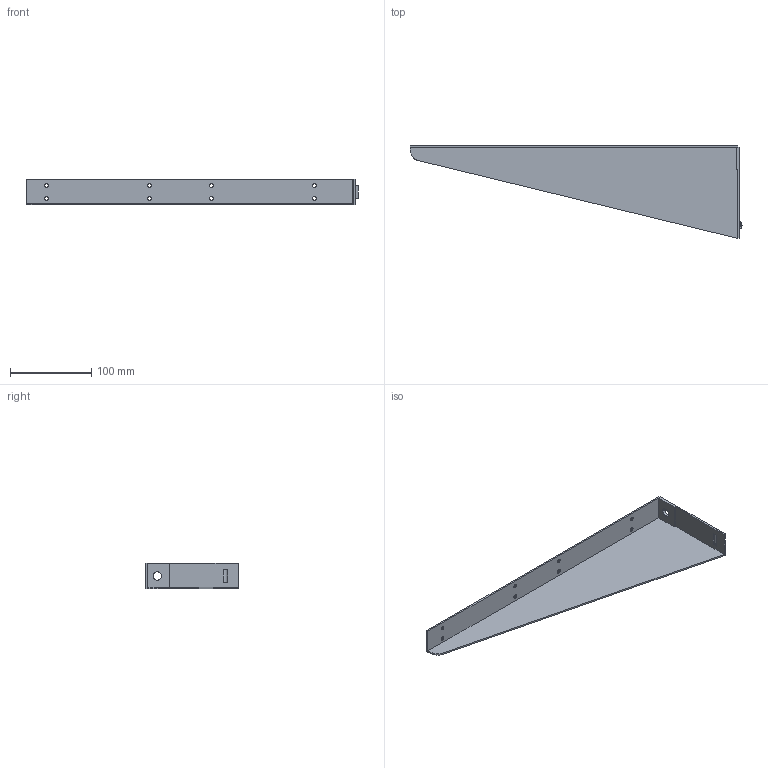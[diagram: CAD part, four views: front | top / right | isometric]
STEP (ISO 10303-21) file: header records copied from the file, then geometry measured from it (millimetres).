
FILE_DESCRIPTION(('TurboCAD Mac Pro'),'Build 980');
FILE_NAME('A2496L.stp',' ',(''),(''),'ACIS Interop','IMSI','TurboCAD Mac Pro BY IMSI, INCORPORATED');
FILE_SCHEMA(('automotive_design'));
Length unit declared in the file: inch
Products named in the file (1): 1
Bounding box: 409.57 x 114.3 x 31.75 mm (x, y, z)
Volume: 80956 mm3; surface area: 85949.3 mm2
Topology: 1 solids, 1 shells, 62 faces, 177 edges, 116 vertices
Faces by surface type: bspline 42, plane 20
Entity records: 2807 total; most frequent: CARTESIAN_POINT 910, ORIENTED_EDGE 354, EDGE_CURVE 177, DIRECTION 143, VERTEX_POINT 116, LINE 93, VECTOR 93, EDGE_LOOP 83
